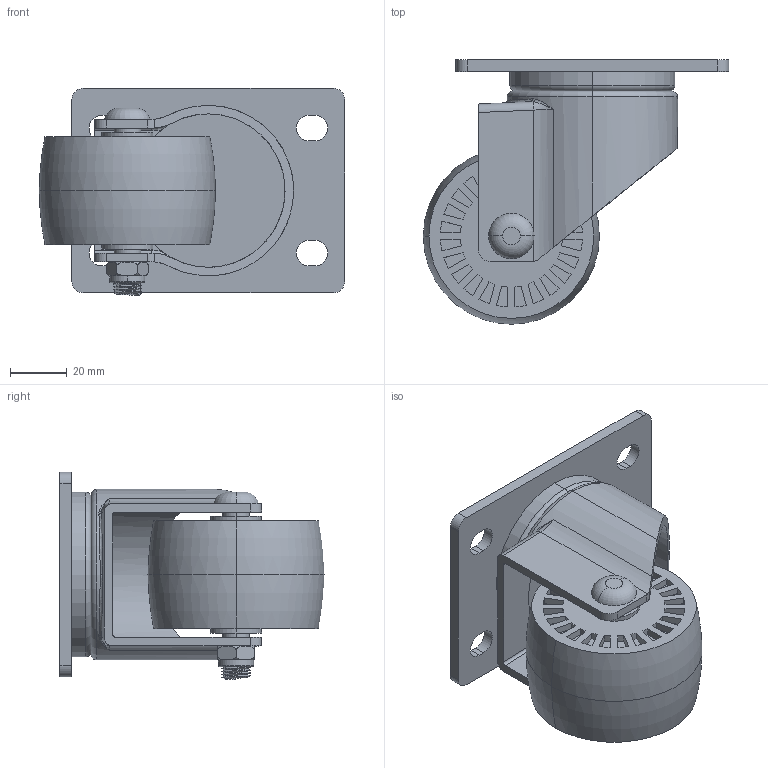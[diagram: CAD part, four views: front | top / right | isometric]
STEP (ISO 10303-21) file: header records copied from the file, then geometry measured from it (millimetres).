
FILE_DESCRIPTION (( 'STEP AP203' ), '1' );
FILE_NAME ('25JPA.STEP', '2018-01-26T06:11:22', ( '' ), ( '' ), 'SwSTEP 2.0', 'SolidWorks 2014', '' );
FILE_SCHEMA (( 'CONFIG_CONTROL_DESIGN' ));
Length unit declared in the file: millimetre
Products named in the file (7): 25JPA; 輪-美國25; O ring; 底盤美國-7544T4; 螺帽M8; 活動架美國-25; 螺絲M8X65
Assembly tree (7 placements, depth 2):
  25JPA
    活動架美國-25
    輪-美國25
    底盤美國-7544T4
    O ring  x2
    螺帽M8
    螺絲M8X65
Bounding box: 107.5 x 93 x 73 mm (x, y, z)
Volume: 181441.8 mm3; surface area: 58205.2 mm2
Topology: 7 solids, 7 shells, 400 faces, 978 edges, 645 vertices
Faces by surface type: plane 195, cylinder 166, torus 26, bspline 13
Full cylindrical faces by diameter (mm): 8 x10
Entity records: 14914 total; most frequent: CARTESIAN_POINT 4677, DIRECTION 1995, ORIENTED_EDGE 1966, EDGE_CURVE 983, AXIS2_PLACEMENT_3D 734, VERTEX_POINT 657, VECTOR 527, LINE 527
